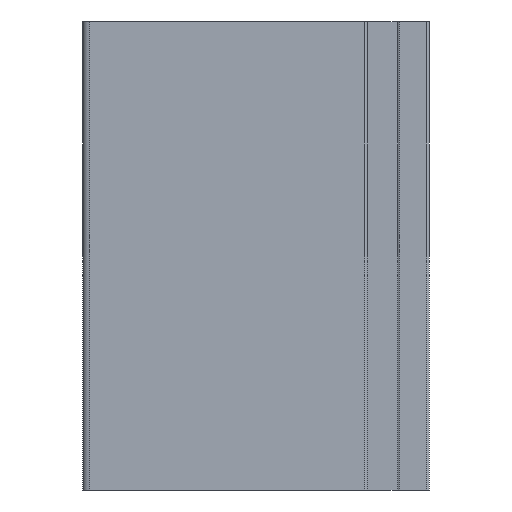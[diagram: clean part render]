
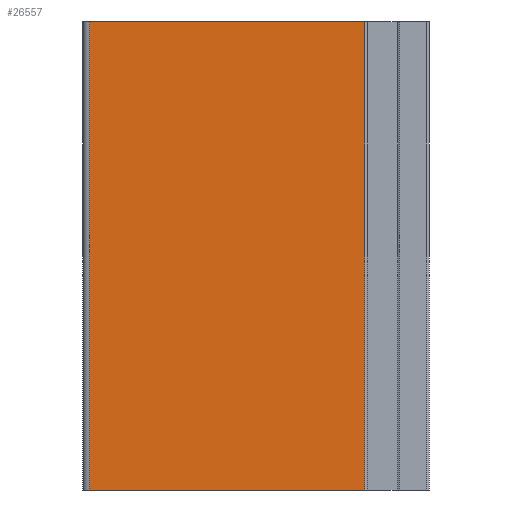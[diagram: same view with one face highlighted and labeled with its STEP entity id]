
A CAD part, left-side view. The second image highlights one B-rep face of the part: STEP entity #26557.
In plain terms, the highlighted planar face has unit normal (-1, 0, 0).
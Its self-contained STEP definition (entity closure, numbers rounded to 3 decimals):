
#150 = CARTESIAN_POINT ( 'NONE',  ( 62.5, 222.785, 0. ) ) ;
#341 = CARTESIAN_POINT ( 'NONE',  ( 62.5, 164.035, 100. ) ) ;
#1480 = VERTEX_POINT ( 'NONE', #35645 ) ;
#3519 = ORIENTED_EDGE ( 'NONE', *, *, #13887, .F. ) ;
#3837 = VERTEX_POINT ( 'NONE', #150 ) ;
#11467 = LINE ( 'NONE', #22987, #62704 ) ;
#13887 = EDGE_CURVE ( 'NONE', #1480, #14089, #17858, .T. ) ;
#14089 = VERTEX_POINT ( 'NONE', #51975 ) ;
#14427 = CARTESIAN_POINT ( 'NONE',  ( 62.5, 222.785, 100. ) ) ;
#16112 = DIRECTION ( 'NONE',  ( 0., 0., -1. ) ) ;
#16285 = VECTOR ( 'NONE', #55342, 1000. ) ;
#17629 = VECTOR ( 'NONE', #16112, 1000. ) ;
#17858 = LINE ( 'NONE', #14427, #16285 ) ;
#17927 = AXIS2_PLACEMENT_3D ( 'NONE', #48748, #18097, #53903 ) ;
#18097 = DIRECTION ( 'NONE',  ( 1., 0., 0. ) ) ;
#18224 = CARTESIAN_POINT ( 'NONE',  ( 62.5, 164.035, 0. ) ) ;
#18919 = EDGE_LOOP ( 'NONE', ( #48030, #53369, #3519, #37820 ) ) ;
#22987 = CARTESIAN_POINT ( 'NONE',  ( 62.5, 222.785, 0. ) ) ;
#25372 = VECTOR ( 'NONE', #36212, 1000. ) ;
#26557 = ADVANCED_FACE ( 'NONE', ( #56608 ), #63988, .F. ) ;
#31006 = EDGE_CURVE ( 'NONE', #14089, #53040, #39002, .T. ) ;
#31225 = LINE ( 'NONE', #51884, #17629 ) ;
#35645 = CARTESIAN_POINT ( 'NONE',  ( 62.5, 222.785, 100. ) ) ;
#36212 = DIRECTION ( 'NONE',  ( 0., 0., -1. ) ) ;
#37820 = ORIENTED_EDGE ( 'NONE', *, *, #56377, .T. ) ;
#39002 = LINE ( 'NONE', #341, #25372 ) ;
#48030 = ORIENTED_EDGE ( 'NONE', *, *, #54843, .T. ) ;
#48748 = CARTESIAN_POINT ( 'NONE',  ( 62.5, 222.785, 100. ) ) ;
#51884 = CARTESIAN_POINT ( 'NONE',  ( 62.5, 222.785, 100. ) ) ;
#51975 = CARTESIAN_POINT ( 'NONE',  ( 62.5, 164.035, 100. ) ) ;
#53040 = VERTEX_POINT ( 'NONE', #18224 ) ;
#53369 = ORIENTED_EDGE ( 'NONE', *, *, #31006, .F. ) ;
#53648 = DIRECTION ( 'NONE',  ( 0., -1., 0. ) ) ;
#53903 = DIRECTION ( 'NONE',  ( 0., 0., -1. ) ) ;
#54843 = EDGE_CURVE ( 'NONE', #3837, #53040, #11467, .T. ) ;
#55342 = DIRECTION ( 'NONE',  ( 0., -1., 0. ) ) ;
#56377 = EDGE_CURVE ( 'NONE', #1480, #3837, #31225, .T. ) ;
#56608 = FACE_OUTER_BOUND ( 'NONE', #18919, .T. ) ;
#62704 = VECTOR ( 'NONE', #53648, 1000. ) ;
#63988 = PLANE ( 'NONE',  #17927 ) ;
